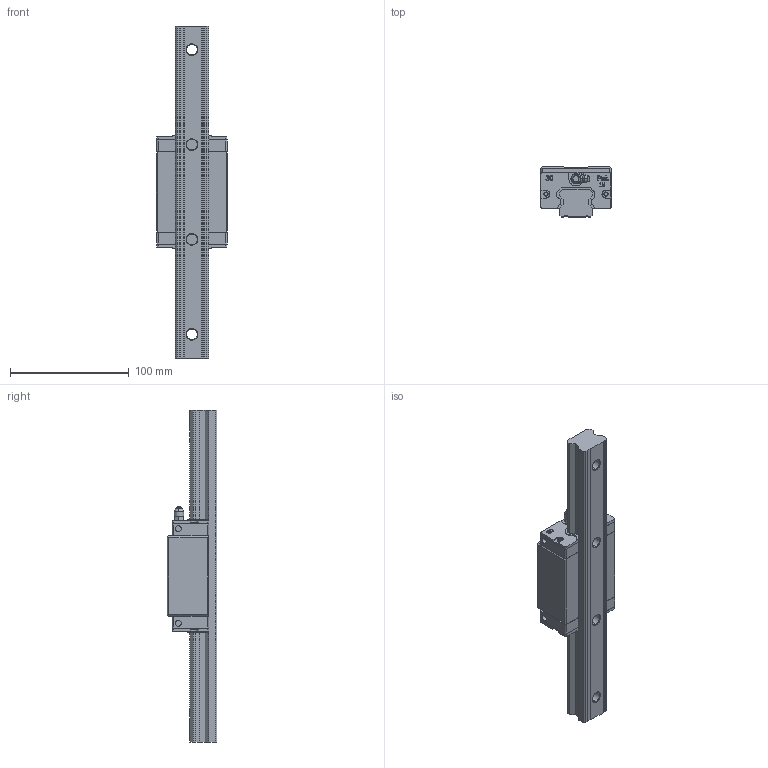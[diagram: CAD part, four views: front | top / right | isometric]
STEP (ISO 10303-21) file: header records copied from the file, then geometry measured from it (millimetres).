
FILE_DESCRIPTION (( 'STEP AP203' ), '1' );
FILE_NAME ('BGCS30BN.STEP', '2025-10-20T06:49:27', ( '' ), ( '' ), 'SwSTEP 2.0', 'SolidWorks 2020', '' );
FILE_SCHEMA (( 'CONFIG_CONTROL_DESIGN' ));
Length unit declared in the file: millimetre
Products named in the file (5): BGXS30BN; NGX02; BGCS30BN; BGR30-L280; BG30端防塵
Assembly tree (5 placements, depth 2):
  BGCS30BN
    BGR30-L280
    BGXS30BN
    BG30端防塵  x2
    NGX02
Bounding box: 59.95 x 42 x 280 mm (x, y, z)
Volume: 296424.5 mm3; surface area: 71313.5 mm2
Topology: 7 solids, 7 shells, 721 faces, 1983 edges, 1325 vertices
Faces by surface type: plane 482, cylinder 132, bspline 66, cone 37, torus 4
Entity records: 19048 total; most frequent: CARTESIAN_POINT 6195, ORIENTED_EDGE 2690, DIRECTION 2309, EDGE_CURVE 1345, VERTEX_POINT 893, VECTOR 819, LINE 819, AXIS2_PLACEMENT_3D 745
